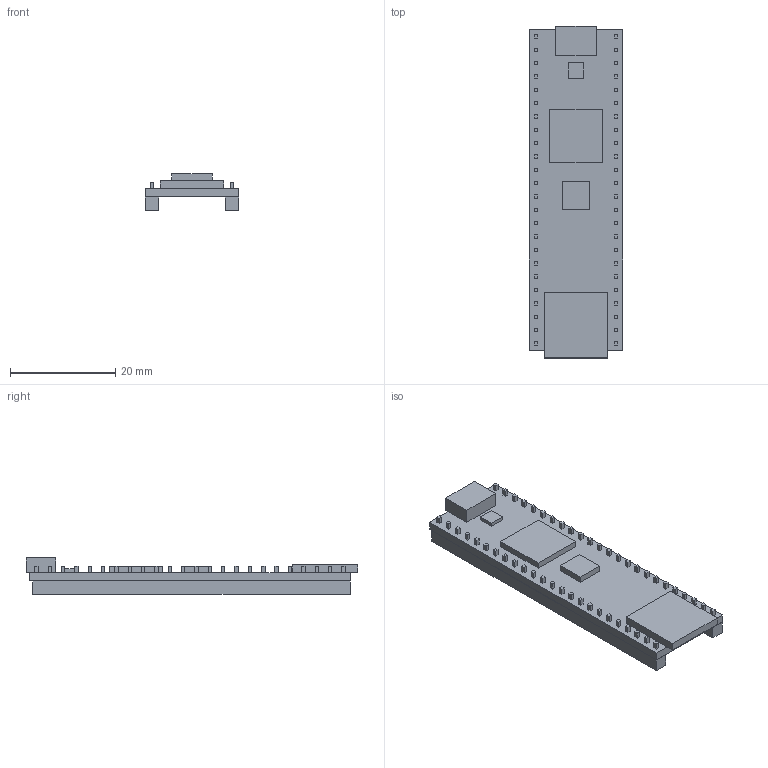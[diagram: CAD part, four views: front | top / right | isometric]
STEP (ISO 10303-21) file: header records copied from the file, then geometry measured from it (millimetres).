
FILE_DESCRIPTION(('Open CASCADE Model'),'2;1');
FILE_NAME('Open CASCADE Shape Model','2026-10-12T20:38:35',('Author'),( 'Open CASCADE'),'Open CASCADE STEP processor 8.0','build123d', 'Unknown');
FILE_SCHEMA(('AUTOMOTIVE_DESIGN { 1 0 10303 214 1 1 1 1 }'));
Length unit declared in the file: millimetre
Products named in the file (57): COMPOUND
Assembly tree (56 placements, depth 2):
  COMPOUND
    COMPOUND
    COMPOUND
    COMPOUND
    COMPOUND
    COMPOUND
    COMPOUND
    COMPOUND
    COMPOUND
    COMPOUND
    COMPOUND
    COMPOUND
    COMPOUND
    COMPOUND
    COMPOUND
    COMPOUND
    COMPOUND
    COMPOUND
    COMPOUND
    COMPOUND
    COMPOUND
    COMPOUND
    COMPOUND
    COMPOUND
    COMPOUND
    COMPOUND
    COMPOUND
    COMPOUND
    COMPOUND
    COMPOUND
    COMPOUND
    COMPOUND
    COMPOUND
    COMPOUND
    COMPOUND
    COMPOUND
    COMPOUND
    COMPOUND
    COMPOUND
    COMPOUND
    COMPOUND
    COMPOUND
    COMPOUND
    COMPOUND
    COMPOUND
    COMPOUND
    COMPOUND
    COMPOUND
    COMPOUND
    COMPOUND
    COMPOUND
    COMPOUND
    COMPOUND
    COMPOUND
    COMPOUND
    COMPOUND
    COMPOUND
Bounding box: 17.78 x 63.16 x 6.9 mm (x, y, z)
Volume: 3033.8 mm3; surface area: 4742.8 mm2
Topology: 56 solids, 56 shells, 336 faces, 672 edges, 448 vertices
Faces by surface type: plane 336
Entity records: 18949 total; most frequent: CARTESIAN_POINT 2857, DIRECTION 2802, LINE 2016, VECTOR 2016, ORIENTED_EDGE 1344, PCURVE 1344, DEFINITIONAL_REPRESENTATION 1344, EDGE_CURVE 672
